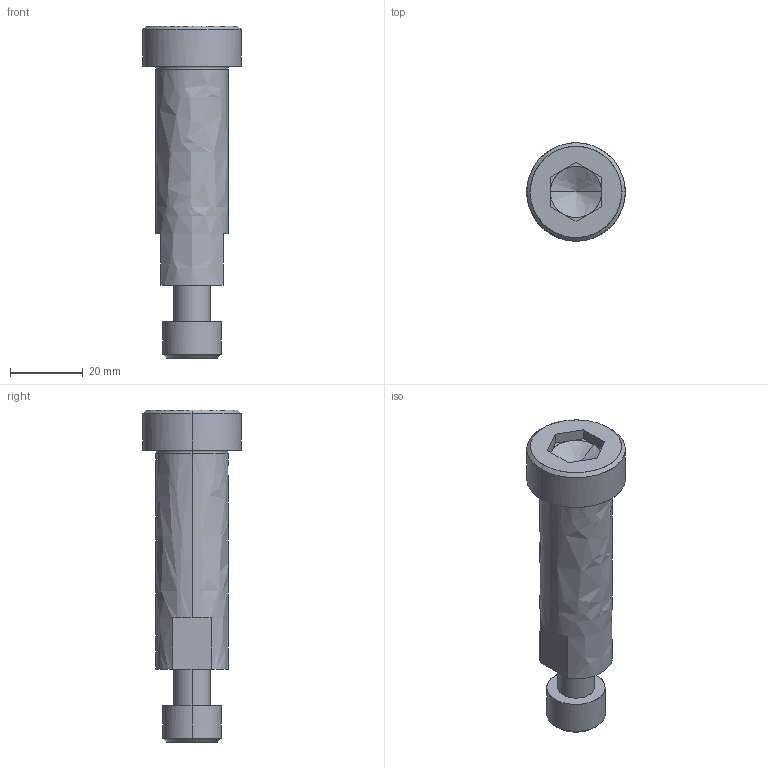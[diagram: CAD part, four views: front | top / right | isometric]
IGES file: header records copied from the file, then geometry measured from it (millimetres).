
Global section: file name: E:\UnigraphicsGraphicData\MISUMI_PRESS-PARTS\IGES\3d_sbt20-60_05079_r00.igs; native system: NX V5.0; preprocessor: UGS NX IGES V5.0; author: MISUMI; date: 20110105.162441; units: millimetre
Bounding box: 27 x 27 x 91 mm (x, y, z)
Surface area: 8579.1 mm2 (no closed solid volume)
Topology: 0 solids, 0 shells, 56 faces, 318 edges, 314 vertices
Faces by surface type: bspline 56
